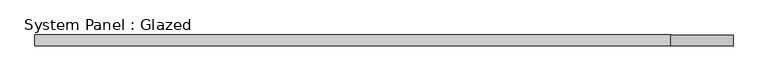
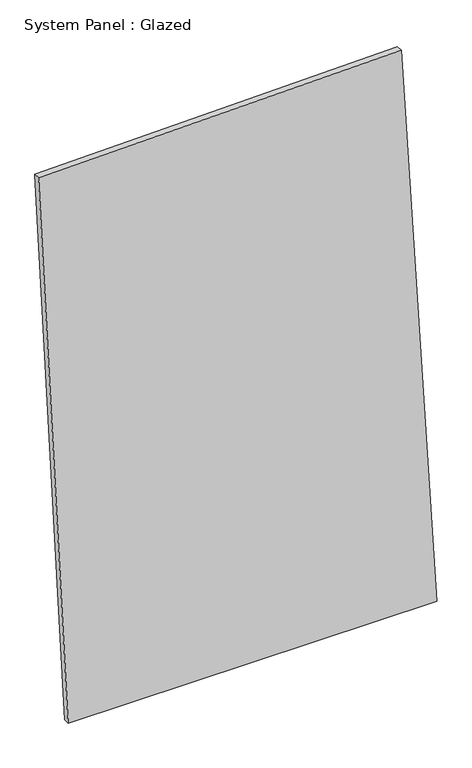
"""IFC4 building model written with IfcOpenShell, lengths in millimetres: plate geometry, System Panel : Glazed."""

from ifc_helpers import new_model, si_unit, frame, origin, place, context, project, spatial, polyline, outline, extrude, source, transform, mapped, element, save


def system_panel_glazed_c1d942a5(model_context):
    return source(origin(), model_context, "Body", "SweptSolid", [
        extrude(outline(polyline([(0.0, -679.3246623), (0.0, 797.930513), (2380.9502659, 655.452347), (2350.5786854, -797.930513), (0.0, -679.3246623)])), frame((0.0, -49.5, 0.0), z_axis=(0.0, 1.0, 0.0), x_axis=(0.0, 0.0, 1.0)), (0.0, 0.0, 1.0), 25.0),
    ])


if __name__ == "__main__":
    model = new_model("IFC4")
    model_context = context("Model", 3, world=origin())
    ifc_project = project(units=[si_unit("LENGTHUNIT", "METRE", prefix="MILLI")], contexts=[model_context])
    site = spatial("IfcSite", under=ifc_project)
    building = spatial("IfcBuilding", under=site)
    placement = place(None, origin())
    system_panel_glazed_shape = system_panel_glazed_c1d942a5(model_context)
    element("IfcPlate", 1, ObjectType="System Panel : Glazed", at=placement, inside=building, context=model_context, shape_type="MappedRepresentation", body=[
        mapped(system_panel_glazed_shape, transform((0.0, 0.0, 0.0), x_axis=(1.0, 0.0, 0.0), y_axis=(0.0, 1.0, 0.0), z_axis=(0.0, 0.0, 1.0))),
    ])
    save(model, "model.ifc")
